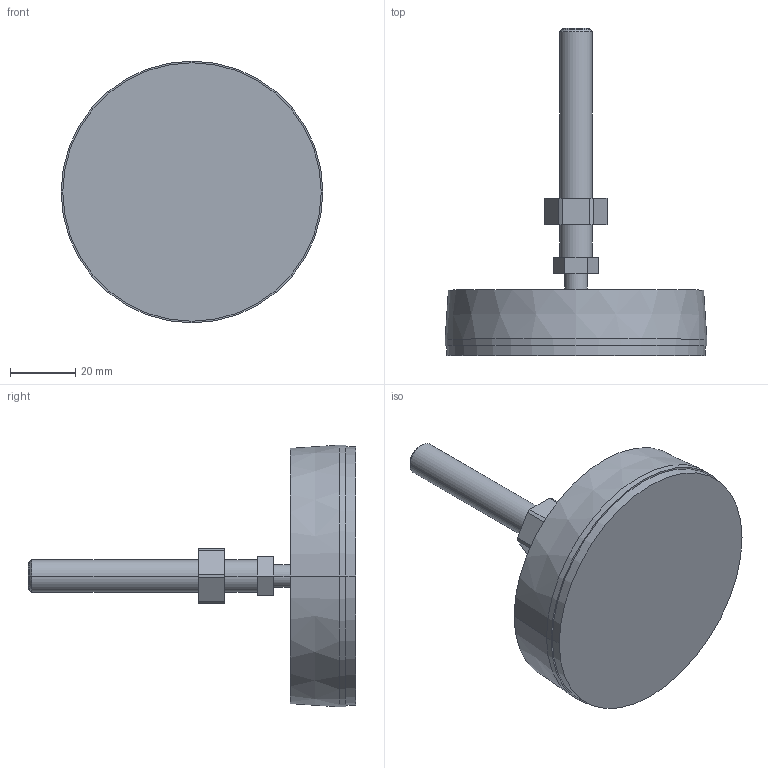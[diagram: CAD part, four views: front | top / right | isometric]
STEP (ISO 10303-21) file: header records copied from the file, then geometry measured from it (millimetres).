
FILE_DESCRIPTION((''),'2;1');
FILE_NAME('SUP08010','2002-12-27T',('Lipro doo'),('Lipro d.o.o.'),'PRO/ENGINEER BY PARAMETRIC TECHNOLOGY CORPORATION, 2001150','PRO/ENGINEER BY PARAMETRIC TECHNOLOGY CORPORATION, 2001150','');
FILE_SCHEMA(('CONFIG_CONTROL_DESIGN'));
Length unit declared in the file: millimetre
Products named in the file (1): SUP08010
Bounding box: 80 x 100 x 80 mm (x, y, z)
Volume: 105951.6 mm3; surface area: 19868 mm2
Topology: 1 solids, 2 shells, 42 faces, 98 edges, 64 vertices
Faces by surface type: plane 20, cylinder 18, cone 4
Entity records: 1254 total; most frequent: DIRECTION 224, CARTESIAN_POINT 205, ORIENTED_EDGE 192, EDGE_CURVE 98, AXIS2_PLACEMENT_3D 83, VERTEX_POINT 64, VECTOR 58, LINE 58
